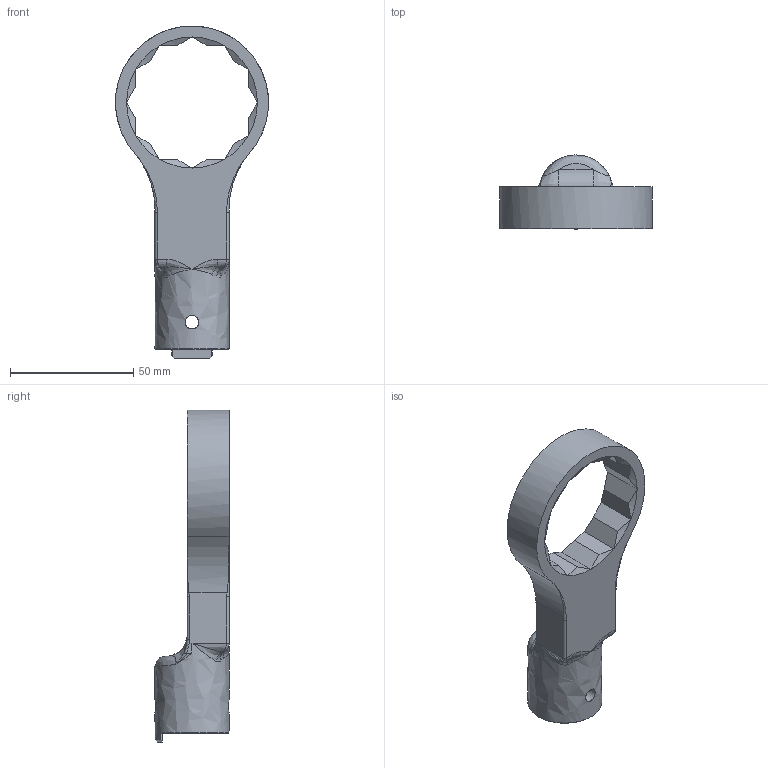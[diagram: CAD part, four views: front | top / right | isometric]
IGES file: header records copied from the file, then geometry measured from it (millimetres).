
Global section: file name: RH22DX46; native system: Autodesk Inventor 2016; preprocessor: unknown; author: Q600; date: 20151110.162840; units: millimetre
Bounding box: 61.9 x 30 x 134.49 mm (x, y, z)
Volume: 50594.6 mm3; surface area: 16942 mm2
Topology: 1 solids, 1 shells, 113 faces, 321 edges, 197 vertices
Faces by surface type: bspline 113
